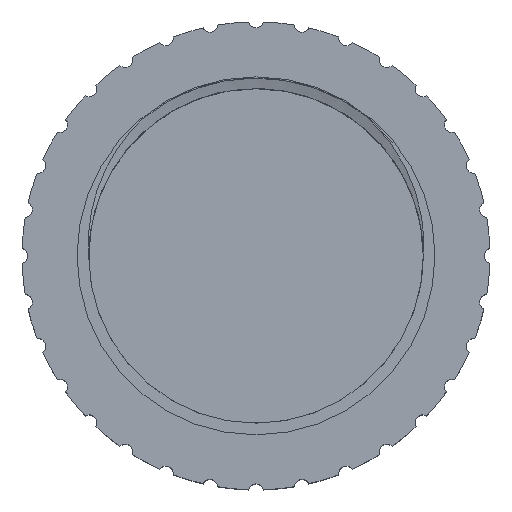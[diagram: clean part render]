
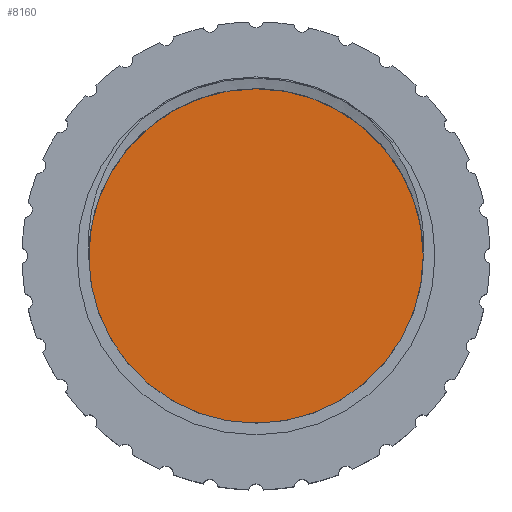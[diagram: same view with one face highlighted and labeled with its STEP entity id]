
A CAD part, top view. The second image highlights one B-rep face of the part: STEP entity #8160.
In plain terms, the highlighted planar face has unit normal (0, 0, 1).
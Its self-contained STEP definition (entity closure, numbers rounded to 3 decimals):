
#8094 = CYLINDRICAL_SURFACE('',#8095,14.3);
#8095 = AXIS2_PLACEMENT_3D('',#8096,#8097,#8098);
#8096 = CARTESIAN_POINT('',(0.,0.,15.01));
#8097 = DIRECTION('',(-0.,0.,1.));
#8098 = DIRECTION('',(1.,0.,0.));
#8111 = VERTEX_POINT('',#8112);
#8112 = CARTESIAN_POINT('',(14.3,0.,4.01));
#8133 = EDGE_CURVE('',#8111,#8111,#8134,.T.);
#8134 = SURFACE_CURVE('',#8135,(#8140,#8147),.PCURVE_S1.);
#8135 = CIRCLE('',#8136,14.3);
#8136 = AXIS2_PLACEMENT_3D('',#8137,#8138,#8139);
#8137 = CARTESIAN_POINT('',(0.,0.,4.01));
#8138 = DIRECTION('',(0.,0.,-1.));
#8139 = DIRECTION('',(1.,0.,0.));
#8140 = PCURVE('',#8094,#8141);
#8141 = DEFINITIONAL_REPRESENTATION('',(#8142),#8146);
#8142 = LINE('',#8143,#8144);
#8143 = CARTESIAN_POINT('',(-0.,-11.));
#8144 = VECTOR('',#8145,1.);
#8145 = DIRECTION('',(-1.,0.));
#8146 = ( GEOMETRIC_REPRESENTATION_CONTEXT(2) 
PARAMETRIC_REPRESENTATION_CONTEXT() REPRESENTATION_CONTEXT('2D SPACE',''
  ) );
#8147 = PCURVE('',#8148,#8153);
#8148 = PLANE('',#8149);
#8149 = AXIS2_PLACEMENT_3D('',#8150,#8151,#8152);
#8150 = CARTESIAN_POINT('',(0.,0.,4.01)
  );
#8151 = DIRECTION('',(0.,0.,-1.));
#8152 = DIRECTION('',(1.,0.,0.));
#8153 = DEFINITIONAL_REPRESENTATION('',(#8154),#8158);
#8154 = CIRCLE('',#8155,14.3);
#8155 = AXIS2_PLACEMENT_2D('',#8156,#8157);
#8156 = CARTESIAN_POINT('',(0.,0.));
#8157 = DIRECTION('',(1.,0.));
#8158 = ( GEOMETRIC_REPRESENTATION_CONTEXT(2) 
PARAMETRIC_REPRESENTATION_CONTEXT() REPRESENTATION_CONTEXT('2D SPACE',''
  ) );
#8160 = ADVANCED_FACE('',(#8161),#8148,.F.);
#8161 = FACE_BOUND('',#8162,.F.);
#8162 = EDGE_LOOP('',(#8163));
#8163 = ORIENTED_EDGE('',*,*,#8133,.T.);
